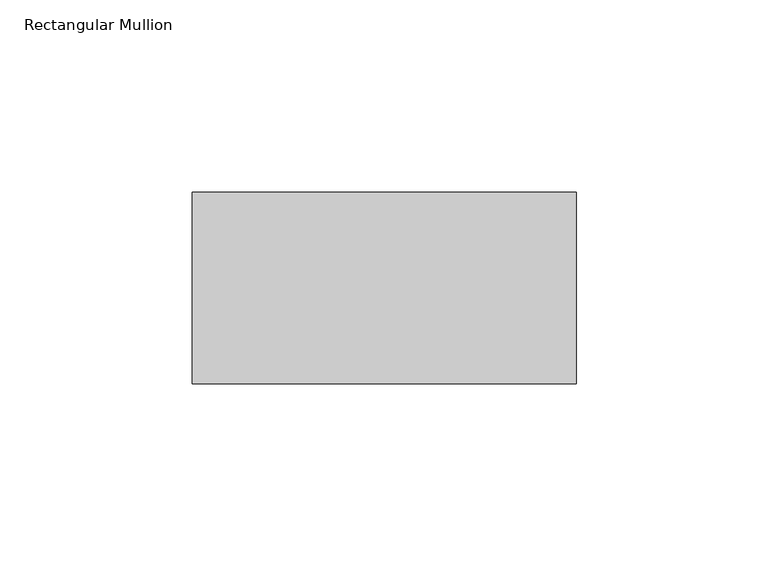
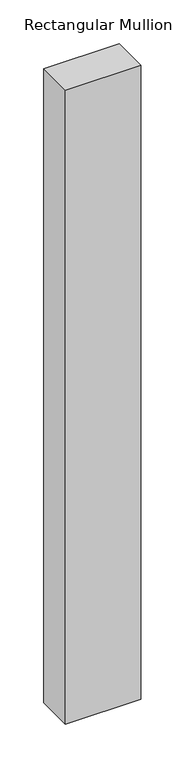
"""IFC4 building model written with IfcOpenShell, lengths in millimetres: member geometry, Rectangular Mullion : Mullion_Curtain Wall_Generic Showcase_50x100mm."""

from ifc_helpers import new_model, si_unit, frame, origin, place, context, project, spatial, polyline, outline, extrude, source, transform, mapped, element, save


def rectangular_mullion_f1e0426e(model_context):
    return source(origin(), model_context, "Body", "SweptSolid", [
        extrude(outline(polyline([(0.0, 50.0), (0.0, 0.0), (-100.0, 0.0), (-100.0, 50.0), (0.0, 50.0)])), frame((0.0, 0.0, -887.5), z_axis=(0.0, 0.0, 1.0), x_axis=(1.0, 0.0, 0.0)), (0.0, 0.0, 1.0), 887.5),
    ])


if __name__ == "__main__":
    model = new_model("IFC4")
    model_context = context("Model", 3, world=origin())
    ifc_project = project(units=[si_unit("LENGTHUNIT", "METRE", prefix="MILLI")], contexts=[model_context])
    site = spatial("IfcSite", under=ifc_project)
    building = spatial("IfcBuilding", under=site)
    placement = place(None, origin())
    rectangular_mullion_shape = rectangular_mullion_f1e0426e(model_context)
    element("IfcMember", 1, ObjectType="Rectangular Mullion : Mullion_Curtain Wall_Generic Showcase_50x100mm", at=placement, inside=building, context=model_context, shape_type="MappedRepresentation", body=[
        mapped(rectangular_mullion_shape, transform((0.0, 0.0, 0.0), x_axis=(1.0, 0.0, 0.0), y_axis=(0.0, 1.0, 0.0), z_axis=(0.0, 0.0, 1.0))),
    ])
    save(model, "model.ifc")
